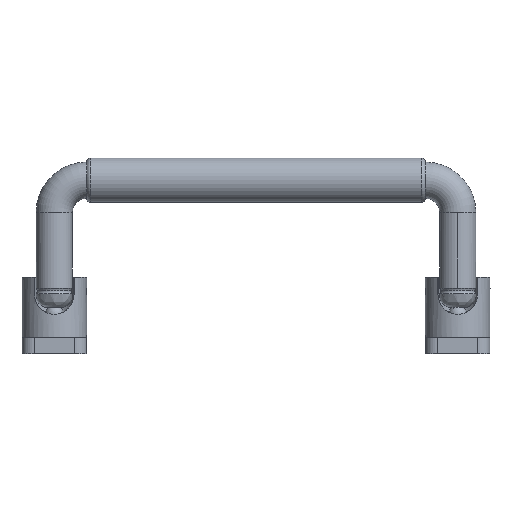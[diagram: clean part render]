
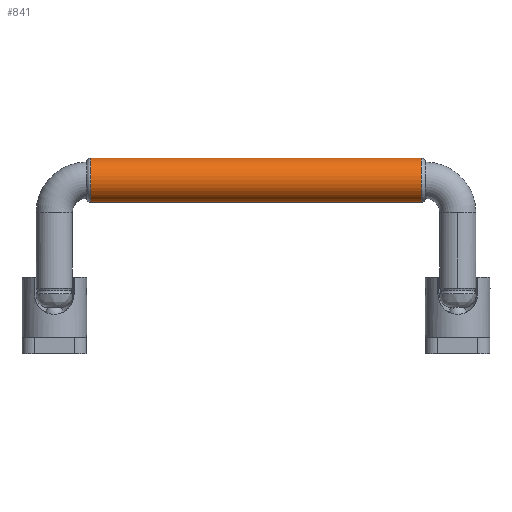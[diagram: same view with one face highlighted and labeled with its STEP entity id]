
A CAD part, left-side view. The second image highlights one B-rep face of the part: STEP entity #841.
In plain terms, the highlighted cylindrical face has radius 5.5 mm (diameter 11 mm), a partial arc.
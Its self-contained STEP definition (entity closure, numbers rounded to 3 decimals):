
#63 = DIRECTION ( 'NONE',  ( 0., 1., 0. ) ) ;
#607 = CARTESIAN_POINT ( 'NONE',  ( 21., 100., 32.074 ) ) ;
#841 = ADVANCED_FACE ( 'NONE', ( #3371 ), #3993, .T. ) ;
#885 = CARTESIAN_POINT ( 'NONE',  ( 21., 100., 43.074 ) ) ;
#1279 = CIRCLE ( 'NONE', #6317, 5.5 ) ;
#1915 = VERTEX_POINT ( 'NONE', #2559 ) ;
#2481 = EDGE_CURVE ( 'NONE', #3740, #4859, #7194, .T. ) ;
#2526 = CARTESIAN_POINT ( 'NONE',  ( 21., 99.01, 43.074 ) ) ;
#2559 = CARTESIAN_POINT ( 'NONE',  ( 21., 16.99, 32.074 ) ) ;
#2643 = LINE ( 'NONE', #885, #7174 ) ;
#2663 = VERTEX_POINT ( 'NONE', #3850 ) ;
#2823 = ORIENTED_EDGE ( 'NONE', *, *, #6856, .T. ) ;
#3097 = CARTESIAN_POINT ( 'NONE',  ( 21., 99.01, 32.074 ) ) ;
#3313 = AXIS2_PLACEMENT_3D ( 'NONE', #6226, #4547, #3406 ) ;
#3371 = FACE_OUTER_BOUND ( 'NONE', #7172, .T. ) ;
#3406 = DIRECTION ( 'NONE',  ( 0., 0., 1. ) ) ;
#3594 = DIRECTION ( 'NONE',  ( 0., 0., 1. ) ) ;
#3740 = VERTEX_POINT ( 'NONE', #3097 ) ;
#3850 = CARTESIAN_POINT ( 'NONE',  ( 21., 16.99, 43.074 ) ) ;
#3993 = CYLINDRICAL_SURFACE ( 'NONE', #3313, 5.5 ) ;
#4480 = LINE ( 'NONE', #607, #6832 ) ;
#4547 = DIRECTION ( 'NONE',  ( 0., 1., 0. ) ) ;
#4747 = ORIENTED_EDGE ( 'NONE', *, *, #6719, .F. ) ;
#4859 = VERTEX_POINT ( 'NONE', #2526 ) ;
#4872 = DIRECTION ( 'NONE',  ( 0., 0., 1. ) ) ;
#5136 = AXIS2_PLACEMENT_3D ( 'NONE', #5920, #6535, #4872 ) ;
#5223 = CARTESIAN_POINT ( 'NONE',  ( 21., 16.99, 37.574 ) ) ;
#5262 = EDGE_CURVE ( 'NONE', #1915, #2663, #1279, .T. ) ;
#5456 = ORIENTED_EDGE ( 'NONE', *, *, #2481, .F. ) ;
#5815 = ORIENTED_EDGE ( 'NONE', *, *, #5262, .T. ) ;
#5920 = CARTESIAN_POINT ( 'NONE',  ( 21., 99.01, 37.574 ) ) ;
#6226 = CARTESIAN_POINT ( 'NONE',  ( 21., 100., 37.574 ) ) ;
#6317 = AXIS2_PLACEMENT_3D ( 'NONE', #5223, #6401, #3594 ) ;
#6401 = DIRECTION ( 'NONE',  ( 0., 1., 0. ) ) ;
#6535 = DIRECTION ( 'NONE',  ( 0., 1., 0. ) ) ;
#6719 = EDGE_CURVE ( 'NONE', #1915, #3740, #4480, .T. ) ;
#6832 = VECTOR ( 'NONE', #63, 1000. ) ;
#6856 = EDGE_CURVE ( 'NONE', #2663, #4859, #2643, .T. ) ;
#7013 = DIRECTION ( 'NONE',  ( 0., 1., 0. ) ) ;
#7172 = EDGE_LOOP ( 'NONE', ( #4747, #5815, #2823, #5456 ) ) ;
#7174 = VECTOR ( 'NONE', #7013, 1000. ) ;
#7194 = CIRCLE ( 'NONE', #5136, 5.5 ) ;
